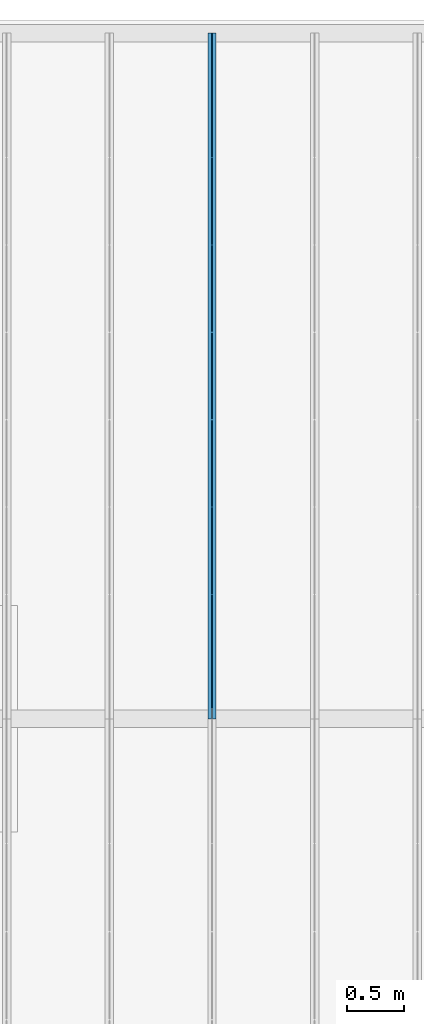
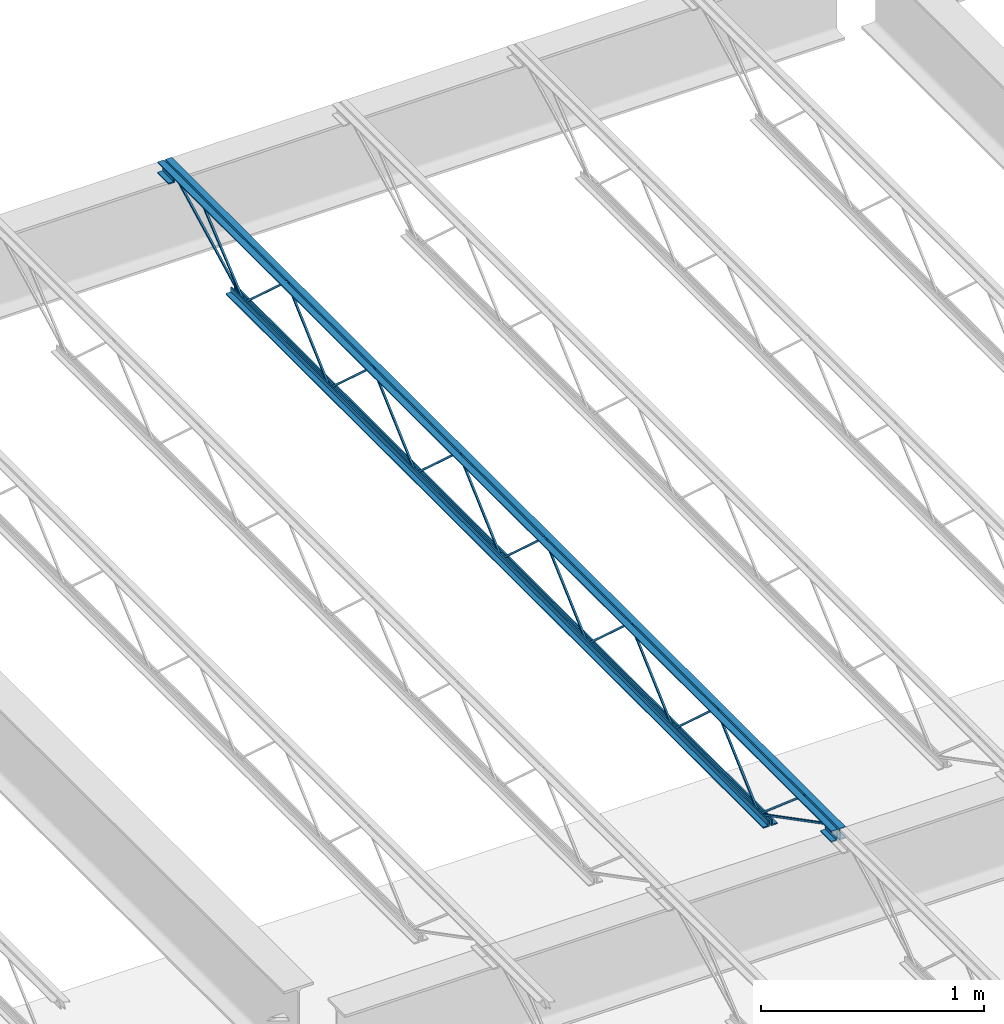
# One storey, part 42 of 75: 1 beam.
"""IFC2X3 building model written with IfcOpenShell, lengths in metres."""

import ifcopenshell
import ifcopenshell.guid

model = None  # the IFC model being written
_history = None  # IfcOwnerHistory: only IFC2X3 demands one
_inside = {}  # id of a spatial element -> (the spatial element, [elements in it])
_under = {}  # id of a project, library or spatial element -> (it, [spatial elements below it])
_declared = {}  # id of a project -> (the project, [libraries it declares])
_typed = {}  # id of a type object -> (the type object, [elements of that type])
_made_of = {}  # id of a material, layer set ... -> (it, [elements and type objects made of it])


def new_model(schema):
    """Start an empty IFC model of exactly this schema.

    Asked for "IFC4X3", IfcOpenShell would pick the latest addendum, in which some entities
    have other attributes; the version numbers below select the first issue.
    IFC2X3 requires an IfcOwnerHistory on every rooted entity: one is made here for all.
    """
    global model, _history
    if schema == "IFC4X3":
        model = ifcopenshell.file(schema_version=(4, 3, 0, 0))
    else:
        model = ifcopenshell.file(schema=schema)
    _inside.clear()
    _under.clear()
    _declared.clear()
    _typed.clear()
    _made_of.clear()
    _history = None
    if model.schema == "IFC2X3":
        org = make("IfcOrganization", Name="unknown")
        user = make(
            "IfcPersonAndOrganization",
            ThePerson=make("IfcPerson", FamilyName="unknown"),
            TheOrganization=org,
        )
        app = make(
            "IfcApplication",
            ApplicationDeveloper=org,
            Version="unknown",
            ApplicationFullName="unknown",
            ApplicationIdentifier="unknown",
        )
        _history = make(
            "IfcOwnerHistory",
            OwningUser=user,
            OwningApplication=app,
            ChangeAction="ADDED",
            CreationDate=0,
        )
    return model


def make(cls, **values):
    """One entity of the class cls with the attributes given. An attribute that is None is left unset."""
    return model.create_entity(
        cls, **{name: value for name, value in values.items() if value is not None}
    )


def entity(cls, *values):
    """Any entity or typed value of the class cls, its attributes in the order of the schema. None: left unset."""
    e = model.create_entity(cls)
    for i, value in enumerate(values):
        if value is not None:
            e[i] = value
    return e


def rooted(cls, **values):
    """An entity with a GlobalId (a new one), such as an element, a storey or a relation."""
    return make(cls, GlobalId=ifcopenshell.guid.new(), OwnerHistory=_history, **values)


def si_unit(unit_type, name, prefix=None):
    """IfcSIUnit, for example si_unit("LENGTHUNIT", "METRE", prefix="MILLI")."""
    return make("IfcSIUnit", UnitType=unit_type, Prefix=prefix, Name=name)


def converted_unit(unit_type, name, factor, base, dimensions=None, offset=None):
    """IfcConversionBasedUnit, such as the inch: factor (a typed value) times the base unit."""
    return make(
        "IfcConversionBasedUnit"
        if offset is None
        else "IfcConversionBasedUnitWithOffset",
        ConversionOffset=offset,
        Dimensions=None
        if dimensions is None
        else entity("IfcDimensionalExponents", *dimensions),
        UnitType=unit_type,
        Name=name,
        ConversionFactor=make(
            "IfcMeasureWithUnit", ValueComponent=factor, UnitComponent=base
        ),
    )


def assignment(units):
    """IfcUnitAssignment: the units of a project."""
    return None if units is None else make("IfcUnitAssignment", Units=units)


def point(xyz):
    """IfcCartesianPoint."""
    return None if xyz is None else make("IfcCartesianPoint", Coordinates=xyz)


def direction(xyz):
    """IfcDirection."""
    return None if xyz is None else make("IfcDirection", DirectionRatios=xyz)


def frame(location, z_axis=None, x_axis=None):
    """IfcAxis2Placement3D, a coordinate frame: its origin and axes. An axis left out is left unset."""
    return make(
        "IfcAxis2Placement3D",
        Location=point(location),
        Axis=direction(z_axis),
        RefDirection=direction(x_axis),
    )


def origin():
    """The frame at (0, 0, 0) with its axes left unset."""
    return frame((0.0, 0.0, 0.0))


def place(relative_to, where):
    """IfcLocalPlacement: puts the frame where relative to a parent placement (None: the world)."""
    return make(
        "IfcLocalPlacement", PlacementRelTo=relative_to, RelativePlacement=where
    )


def context(
    kind, dimensions, precision=None, world=None, true_north=None, identifier=None
):
    """IfcGeometricRepresentationContext, for example the 3D "Model" context."""
    return make(
        "IfcGeometricRepresentationContext",
        ContextIdentifier=identifier,
        ContextType=kind,
        CoordinateSpaceDimension=dimensions,
        Precision=precision,
        WorldCoordinateSystem=world,
        TrueNorth=true_north,
    )


def project(units=None, contexts=None):
    """IfcProject with its units and contexts."""
    return rooted(
        "IfcProject",
        Name="project",
        RepresentationContexts=contexts,
        UnitsInContext=assignment(units),
    )


def spatial(cls, under=None, at=None, **own):
    """A site, building, storey or space (cls), placed at a placement, below another one or the project."""
    s = rooted(cls, ObjectPlacement=at, **own)
    if under is not None:
        _under.setdefault(under.id(), (under, []))[1].append(s)
    return s


def faces_of(points, faces, orient=None, outer=None):
    """IfcFace entities. A face is a list of loops; a loop is a list of indices into points, from 0.

    orient and outer hold one flag for each loop. By default every Orientation is true, the
    first loop of a face is its IfcFaceOuterBound and the others are IfcFaceBound.
    """
    made = []
    for i, loops in enumerate(faces):
        bounds = []
        for j, loop in enumerate(loops):
            is_outer = j == 0 if outer is None else outer[i][j]
            bounds.append(
                make(
                    "IfcFaceOuterBound" if is_outer else "IfcFaceBound",
                    Bound=make("IfcPolyLoop", Polygon=[points[k] for k in loop]),
                    Orientation=True if orient is None else orient[i][j],
                )
            )
        made.append(make("IfcFace", Bounds=bounds))
    return made


def face_set(faces, orient=None, outer=None):
    """The faces of one IfcConnectedFaceSet. surface_model builds it on its shared points."""
    return ("IfcConnectedFaceSet", faces, orient, outer)


def surface_model(cls, points, shells):
    """IfcFaceBasedSurfaceModel or IfcShellBasedSurfaceModel (cls): surfaces that need not close."""
    shared = [point(p) for p in points]
    made = [make(c, CfsFaces=faces_of(shared, fs, o, b)) for c, fs, o, b in shells]
    if cls == "IfcFaceBasedSurfaceModel":
        return make(cls, FbsmFaces=made)
    return make(cls, SbsmBoundary=made)


def shape(context_of_items, identifier, shape_type, items):
    """IfcShapeRepresentation: the items that make up one representation, for example the "Body"."""
    return make(
        "IfcShapeRepresentation",
        ContextOfItems=context_of_items,
        RepresentationIdentifier=identifier,
        RepresentationType=shape_type,
        Items=items,
    )


def made_of(thing, what):
    """Note that an element or type object is made of a material, layer set ...; save() writes the relation."""
    if what is not None:
        _made_of.setdefault(what.id(), (what, []))[1].append(thing)
    return thing


def element(
    cls,
    number,
    at=None,
    inside=None,
    cuts=None,
    type_object=None,
    material=None,
    context=None,
    identifier="Body",
    shape_type=None,
    held_by="IfcProductDefinitionShape",
    body=None,
    shapes=None,
    **own,
):
    """One element of the class cls, such as IfcWall. Its Tag is "e" and its number.

    at: its placement. inside: the storey or other place that contains it. cuts: it is an
    opening in that element (IfcRelVoidsElement). A single representation is given by context,
    identifier, shape_type and body (its items); several are given by shapes. held_by: the class
    of the entity that holds the representations. save() writes the other relations.
    """
    e = rooted(cls, Tag="e%d" % number, ObjectPlacement=at, **own)
    if body is not None:
        shapes = [shape(context, identifier, shape_type, body)]
    if shapes is not None:
        e.Representation = make(held_by, Representations=shapes)
    if inside is not None:
        _inside.setdefault(inside.id(), (inside, []))[1].append(e)
    if cuts is not None:
        rooted(
            "IfcRelVoidsElement", RelatingBuildingElement=cuts, RelatedOpeningElement=e
        )
    if type_object is not None:
        _typed.setdefault(type_object.id(), (type_object, []))[1].append(e)
    return made_of(e, material)


def aggregate(whole, parts):
    """IfcRelAggregates: a whole, such as a stair, and the parts it consists of."""
    return rooted("IfcRelAggregates", RelatingObject=whole, RelatedObjects=parts)


def save(model, path):
    """Write the relations noted so far, then the file.

    IfcRelAggregates (storeys below a building ...), IfcRelContainedInSpatialStructure (elements
    in a storey), IfcRelDefinesByType, IfcRelAssociatesMaterial and IfcRelDeclares: one each for
    every whole, place, type object, material and project.
    """
    for whole, parts in _under.values():
        aggregate(whole, parts)
    for where, things in _inside.values():
        rooted(
            "IfcRelContainedInSpatialStructure",
            RelatedElements=things,
            RelatingStructure=where,
        )
    for kind, things in _typed.values():
        rooted("IfcRelDefinesByType", RelatedObjects=things, RelatingType=kind)
    for what, things in _made_of.values():
        rooted("IfcRelAssociatesMaterial", RelatedObjects=things, RelatingMaterial=what)
    for by, libraries in _declared.values():
        rooted("IfcRelDeclares", RelatingContext=by, RelatedDefinitions=libraries)
    model.write(path)


model = new_model("IFC2X3")

# Units and contexts
model_context = context("Model", 3, precision=1e-09, world=origin())
plan_context = context("Plan", 3, precision=1e-09, world=origin())
ifc_project = project(units=[si_unit("LENGTHUNIT", "METRE"), si_unit("AREAUNIT", "SQUARE_METRE"), si_unit("VOLUMEUNIT", "CUBIC_METRE"), converted_unit("PLANEANGLEUNIT", "DEGREE", entity("IfcRatioMeasure", 0.01745329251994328), si_unit("PLANEANGLEUNIT", "RADIAN"), dimensions=[0, 0, 0, 0, 0, 0, 0]), si_unit("TIMEUNIT", "SECOND")], contexts=[model_context, plan_context])

# Site, building, storey
site_placement = place(None, origin())
site = spatial("IfcSite", under=ifc_project, at=site_placement, Name="Default", CompositionType="ELEMENT")
building_placement = place(site_placement, origin())
building = spatial("IfcBuilding", under=site, at=building_placement, CompositionType="ELEMENT")
storey_placement = place(building_placement, origin())
storey = spatial("IfcBuildingStorey", under=building, at=storey_placement, Name="First Floor", CompositionType="ELEMENT", Elevation=-3.531500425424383e-13)

# Beam
beam_placement = place(storey_placement, frame((-44.31960714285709, 50.09000000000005, 4.112000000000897), z_axis=(0.0, 0.0, 1.0), x_axis=(-1.0, 0.0, 0.0)))
element("IfcBeam", 1, at=beam_placement, inside=storey, Name="M_K-Series Bar Joist-Rod Web:14K1:14K1", ObjectType="M_K-Series Bar Joist-Rod Web:14K1", context=model_context, shape_type="SurfaceModel", body=[
    surface_model("IfcFaceBasedSurfaceModel", [(-0.03199999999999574, -2.254000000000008, 0.01110000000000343), (-0.04150000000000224, -2.254000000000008, 0.01110000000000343), (-0.04150000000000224, -2.254000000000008, 0.001600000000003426), (-0.03199999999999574, -2.254000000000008, 0.001600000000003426), (-0.04149999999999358, -2.252655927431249, 0.01110000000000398), (-0.03199999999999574, -2.252655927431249, 0.01110000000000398), (-0.04150000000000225, -2.248994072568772, 0.001600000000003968), (-0.04150000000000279, -1.869844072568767, 0.3449000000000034), (-0.0415000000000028, -1.86715592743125, 0.3449000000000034), (-0.04150000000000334, -1.48800592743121, 0.001600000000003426), (-0.04150000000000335, -1.483000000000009, 0.001600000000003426), (-0.04150000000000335, -1.483000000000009, 0.01110000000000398), (-0.04150000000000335, -1.484344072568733, 0.01110000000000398), (-0.04150000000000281, -1.863494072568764, 0.3544000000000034), (-0.04150000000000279, -1.873505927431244, 0.3544000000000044), (-0.03200000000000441, -2.248994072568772, 0.001600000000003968), (-0.03199999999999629, -1.869844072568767, 0.3449000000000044), (-0.0319999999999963, -1.86715592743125, 0.3449000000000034), (-0.03199999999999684, -1.48800592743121, 0.001600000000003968), (-0.03199999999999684, -1.483000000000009, 0.001600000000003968), (-0.03199999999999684, -1.483000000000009, 0.01110000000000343), (-0.03199999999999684, -1.484344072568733, 0.01110000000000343), (-0.0319999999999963, -1.863494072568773, 0.3544000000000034), (-0.03199999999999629, -1.873505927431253, 0.3544000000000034), (-0.03199999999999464, -3.025000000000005, 0.01110000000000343), (-0.04150000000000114, -3.025000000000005, 0.01110000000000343), (-0.04150000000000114, -3.025000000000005, 0.001600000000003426), (-0.03199999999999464, -3.025000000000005, 0.001600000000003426), (-0.04149999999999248, -3.023655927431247, 0.01110000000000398), (-0.03199999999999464, -3.023655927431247, 0.01110000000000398), (-0.04150000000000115, -3.01999407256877, 0.001600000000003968), (-0.04150000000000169, -2.640844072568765, 0.3449000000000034), (-0.04150000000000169, -2.638155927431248, 0.3449000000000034), (-0.04150000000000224, -2.259005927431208, 0.001600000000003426), (-0.04150000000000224, -2.254000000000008, 0.01110000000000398), (-0.04150000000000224, -2.255344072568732, 0.01110000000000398), (-0.0415000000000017, -2.634494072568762, 0.3544000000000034), (-0.04150000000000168, -2.644505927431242, 0.3544000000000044), (-0.03200000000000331, -3.01999407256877, 0.001600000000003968), (-0.03199999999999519, -2.640844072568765, 0.3449000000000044), (-0.03199999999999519, -2.638155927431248, 0.3449000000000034), (-0.03199999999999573, -2.259005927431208, 0.001600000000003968), (-0.03199999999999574, -2.254000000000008, 0.001600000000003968), (-0.03199999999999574, -2.255344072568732, 0.01110000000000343), (-0.0319999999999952, -2.634494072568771, 0.3544000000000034), (-0.03199999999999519, -2.644505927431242, 0.3544000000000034), (-0.03199999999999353, -3.796000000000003, 0.01110000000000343), (-0.04150000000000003, -3.796000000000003, 0.01110000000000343), (-0.04150000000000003, -3.796000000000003, 0.001600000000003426), (-0.03199999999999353, -3.796000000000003, 0.001600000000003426), (-0.04149999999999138, -3.794655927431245, 0.01110000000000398), (-0.03199999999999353, -3.794655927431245, 0.01110000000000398), (-0.04150000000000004, -3.790994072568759, 0.001600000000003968), (-0.04150000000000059, -3.411844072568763, 0.3449000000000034), (-0.04150000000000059, -3.409155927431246, 0.3449000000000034), (-0.04150000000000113, -3.030005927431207, 0.001600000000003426), (-0.04150000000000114, -3.025000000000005, 0.01110000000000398), (-0.04150000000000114, -3.026344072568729, 0.01110000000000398), (-0.0415000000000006, -3.40549407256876, 0.3544000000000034), (-0.04150000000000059, -3.41550592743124, 0.3544000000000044), (-0.03200000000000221, -3.790994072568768, 0.001600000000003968), (-0.03199999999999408, -3.411844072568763, 0.3449000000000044), (-0.03199999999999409, -3.409155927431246, 0.3449000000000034), (-0.03199999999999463, -3.030005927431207, 0.001600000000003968), (-0.03199999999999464, -3.025000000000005, 0.001600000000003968), (-0.03199999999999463, -3.026344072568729, 0.01110000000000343), (-0.03199999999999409, -3.40549407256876, 0.3544000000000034), (-0.03199999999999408, -3.41550592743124, 0.3544000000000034), (-0.03199999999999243, -4.567000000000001, 0.01110000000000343), (-0.04149999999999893, -4.567000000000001, 0.01110000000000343), (-0.04149999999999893, -4.567000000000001, 0.001600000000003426), (-0.03199999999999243, -4.567000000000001, 0.001600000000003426), (-0.04149999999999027, -4.565655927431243, 0.01110000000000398), (-0.03199999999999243, -4.565655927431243, 0.01110000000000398), (-0.04149999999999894, -4.561994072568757, 0.001600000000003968), (-0.04149999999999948, -4.182844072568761, 0.3449000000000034), (-0.04149999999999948, -4.180155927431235, 0.3449000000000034), (-0.04150000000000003, -3.801005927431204, 0.001600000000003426), (-0.04150000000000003, -3.795999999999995, 0.001600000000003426), (-0.04150000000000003, -3.796000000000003, 0.01110000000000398), (-0.04150000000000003, -3.797344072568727, 0.01110000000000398), (-0.04149999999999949, -4.176494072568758, 0.3544000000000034), (-0.04149999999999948, -4.186505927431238, 0.3544000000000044), (-0.0320000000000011, -4.561994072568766, 0.001600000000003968), (-0.03199999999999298, -4.182844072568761, 0.3449000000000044), (-0.03199999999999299, -4.180155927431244, 0.3449000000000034), (-0.03199999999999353, -3.801005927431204, 0.001600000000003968), (-0.03199999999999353, -3.796000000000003, 0.001600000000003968), (-0.03199999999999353, -3.795999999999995, 0.01110000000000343), (-0.03199999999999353, -3.797344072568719, 0.01110000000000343), (-0.03199999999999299, -4.176494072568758, 0.3544000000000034), (-0.03199999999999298, -4.186505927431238, 0.3544000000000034), (-0.03199999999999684, -1.483000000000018, 0.01109999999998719), (-0.04150000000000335, -1.483000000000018, 0.01109999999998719), (-0.04150000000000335, -1.483000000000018, 0.001599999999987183), (-0.03199999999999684, -1.483000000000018, 0.001599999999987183), (-0.04150000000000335, -1.48165592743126, 0.01109999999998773), (-0.03200000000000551, -1.48165592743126, 0.01109999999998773), (-0.04150000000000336, -1.477994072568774, 0.001599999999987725), (-0.0415000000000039, -1.098844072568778, 0.3448999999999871), (-0.0415000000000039, -1.096155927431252, 0.3448999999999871), (-0.04150000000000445, -0.717005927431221, 0.001599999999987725), (-0.04150000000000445, -0.7120000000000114, 0.001599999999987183), (-0.04150000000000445, -0.7120000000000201, 0.01109999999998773), (-0.04150000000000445, -0.713344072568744, 0.01109999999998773), (-0.04150000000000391, -1.092494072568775, 0.3543999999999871), (-0.04150000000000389, -1.102505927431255, 0.3543999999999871), (-0.03200000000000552, -1.477994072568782, 0.001599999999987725), (-0.03200000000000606, -1.098844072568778, 0.3448999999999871), (-0.03200000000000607, -1.09615592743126, 0.3448999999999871), (-0.03200000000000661, -0.717005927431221, 0.001599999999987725), (-0.03200000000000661, -0.7120000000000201, 0.001599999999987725), (-0.03199999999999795, -0.7120000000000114, 0.01109999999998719), (-0.03200000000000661, -0.7133440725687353, 0.01109999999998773), (-0.03200000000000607, -1.092494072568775, 0.3543999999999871), (-0.03200000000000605, -1.102505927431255, 0.3543999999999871), (-0.03199999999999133, -5.33799999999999, 0.01110000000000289), (-0.04149999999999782, -5.33799999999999, 0.01110000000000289), (-0.04149999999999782, -5.33799999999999, 0.001600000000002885), (-0.03199999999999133, -5.33799999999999, 0.001600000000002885), (-0.04149999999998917, -5.336655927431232, 0.01110000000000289), (-0.03199999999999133, -5.336655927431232, 0.01110000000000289), (-0.04149999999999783, -5.332994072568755, 0.001600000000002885), (-0.04149999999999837, -4.95384407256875, 0.3449000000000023), (-0.04149999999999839, -4.951155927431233, 0.3449000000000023), (-0.04149999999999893, -4.572005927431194, 0.001600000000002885), (-0.04149999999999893, -4.566999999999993, 0.001600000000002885), (-0.04149999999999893, -4.566999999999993, 0.01110000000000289), (-0.04149999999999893, -4.568344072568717, 0.01110000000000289), (-0.04149999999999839, -4.947494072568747, 0.3544000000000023), (-0.04149999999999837, -4.957505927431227, 0.3544000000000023), (-0.03199999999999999, -5.332994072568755, 0.001600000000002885), (-0.03199999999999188, -4.95384407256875, 0.3449000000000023), (-0.03199999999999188, -4.951155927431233, 0.3449000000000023), (-0.03199999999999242, -4.572005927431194, 0.001600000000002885), (-0.03199999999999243, -4.566999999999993, 0.001600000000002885), (-0.03199999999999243, -4.566999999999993, 0.01110000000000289), (-0.03199999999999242, -4.568344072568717, 0.01110000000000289), (-0.03199999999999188, -4.947494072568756, 0.3544000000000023), (-0.03199999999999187, -4.957505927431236, 0.3544000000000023), (-0.04150000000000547, 0.0, 0.3559999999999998), (-0.07350000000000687, 0.0, 0.3559999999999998), (-0.07350000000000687, 0.0, 0.349499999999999), (-0.048000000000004, 0.0, 0.349499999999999), (-0.048000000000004, 0.0, 0.3239999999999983), (-0.04150000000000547, 0.0, 0.3239999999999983), (-0.03200000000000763, 0.0, 0.3559999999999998), (-0.03200000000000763, 0.0, 0.3239999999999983), (-0.02550000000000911, 0.0, 0.3239999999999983), (-0.02550000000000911, 0.0, 0.349499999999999), (0.0, 0.0, 0.349499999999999), (0.0, 0.0, 0.3559999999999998), (-0.04149999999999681, -6.049999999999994, 0.3559999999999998), (-0.07349999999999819, -6.049999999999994, 0.3559999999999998), (-0.07349999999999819, -6.049999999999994, 0.349499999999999), (-0.04799999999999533, -6.049999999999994, 0.349499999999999), (-0.04799999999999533, -6.049999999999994, 0.3239999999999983), (-0.04149999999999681, -6.049999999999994, 0.3239999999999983), (-0.03199999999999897, -6.049999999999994, 0.3559999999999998), (-0.03199999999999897, -6.049999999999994, 0.3239999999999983), (-0.02550000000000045, -6.049999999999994, 0.3239999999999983), (-0.02550000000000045, -6.049999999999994, 0.349499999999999), (0.0, -6.049999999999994, 0.349499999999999), (0.0, -6.049999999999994, 0.3559999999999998), (-0.03199999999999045, -5.950000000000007, 0.2924999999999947), (0.0, -5.950000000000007, 0.2924999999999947), (0.0, -5.950000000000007, 0.2989999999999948), (-0.02549999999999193, -5.950000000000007, 0.2989999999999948), (-0.02549999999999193, -5.950000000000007, 0.3239999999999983), (-0.03199999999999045, -5.950000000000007, 0.3239999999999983), (-0.07349999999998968, -5.950000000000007, 0.2924999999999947), (-0.04149999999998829, -5.950000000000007, 0.2924999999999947), (-0.04149999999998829, -5.950000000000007, 0.3239999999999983), (-0.04799999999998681, -5.950000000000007, 0.3239999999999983), (-0.04799999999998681, -5.950000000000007, 0.2989999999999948), (-0.07349999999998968, -5.950000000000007, 0.2989999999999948), (-0.03199999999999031, -6.049999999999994, 0.2924999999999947), (0.0, -6.049999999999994, 0.2924999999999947), (0.0, -6.049999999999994, 0.2989999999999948), (-0.02549999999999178, -6.049999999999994, 0.2989999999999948), (-0.02549999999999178, -6.049999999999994, 0.3239999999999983), (-0.03199999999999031, -6.049999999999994, 0.3239999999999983), (-0.07349999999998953, -6.049999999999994, 0.2924999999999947), (-0.04149999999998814, -6.049999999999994, 0.2924999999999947), (-0.04149999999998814, -6.049999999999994, 0.3239999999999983), (-0.04799999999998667, -6.049999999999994, 0.3239999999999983), (-0.04799999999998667, -6.049999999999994, 0.2989999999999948), (-0.07349999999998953, -6.049999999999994, 0.2989999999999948), (-0.04149999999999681, 0.0, 0.2924999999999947), (-0.04149999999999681, 0.0, 0.3239999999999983), (-0.04799999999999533, 0.0, 0.3239999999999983), (-0.04799999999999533, 0.0, 0.2989999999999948), (-0.07349999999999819, 0.0, 0.2989999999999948), (-0.07349999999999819, 0.0, 0.2924999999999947), (-0.03199999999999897, 0.0, 0.2924999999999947), (0.0, 0.0, 0.2924999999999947), (0.0, 0.0, 0.2989999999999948), (-0.02550000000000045, 0.0, 0.2989999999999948), (-0.02550000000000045, 0.0, 0.3239999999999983), (-0.03199999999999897, 0.0, 0.3239999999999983), (-0.04149999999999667, -0.0999999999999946, 0.2924999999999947), (-0.04149999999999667, -0.0999999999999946, 0.3239999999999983), (-0.04799999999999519, -0.0999999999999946, 0.3239999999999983), (-0.04799999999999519, -0.0999999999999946, 0.2989999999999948), (-0.07349999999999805, -0.0999999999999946, 0.2989999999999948), (-0.07349999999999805, -0.0999999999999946, 0.2924999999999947), (-0.03199999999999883, -0.0999999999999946, 0.2924999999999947), (0.0, -0.0999999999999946, 0.2924999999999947), (0.0, -0.0999999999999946, 0.2989999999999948), (-0.0255000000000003, -0.0999999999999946, 0.2989999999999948), (-0.0255000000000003, -0.0999999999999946, 0.3239999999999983), (-0.03199999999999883, -0.0999999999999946, 0.3239999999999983), (-0.0415000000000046, -0.6119999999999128, 0.0), (-0.0415000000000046, -0.6119999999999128, 0.03199999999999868), (-0.04800000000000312, -0.6119999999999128, 0.03199999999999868), (-0.04800000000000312, -0.6119999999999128, 0.006499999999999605), (-0.07350000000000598, -0.6119999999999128, 0.006499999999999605), (-0.07350000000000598, -0.6119999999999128, 0.0), (-0.03200000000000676, -0.6119999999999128, 0.0), (0.0, -0.6119999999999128, 0.0), (0.0, -0.6119999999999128, 0.006499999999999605), (-0.02550000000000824, -0.6119999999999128, 0.006499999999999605), (-0.02550000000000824, -0.6119999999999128, 0.03199999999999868), (-0.03200000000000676, -0.6119999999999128, 0.03199999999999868), (-0.04149999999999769, -5.437999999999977, 0.0), (-0.04149999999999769, -5.437999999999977, 0.03199999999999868), (-0.04799999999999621, -5.437999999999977, 0.03199999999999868), (-0.04799999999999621, -5.437999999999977, 0.006499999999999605), (-0.07349999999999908, -5.437999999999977, 0.006499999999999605), (-0.07349999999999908, -5.437999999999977, 0.0), (-0.03199999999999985, -5.437999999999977, 0.0), (0.0, -5.437999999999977, 0.0), (0.0, -5.437999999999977, 0.006499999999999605), (-0.02550000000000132, -5.437999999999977, 0.006499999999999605), (-0.02550000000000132, -5.437999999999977, 0.03199999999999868), (-0.03199999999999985, -5.437999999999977, 0.03199999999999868), (-0.03199999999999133, -5.335811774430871, 0.01056594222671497), (-0.04149999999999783, -5.335811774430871, 0.01056594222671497), (-0.04149999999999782, -5.34018822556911, 0.002134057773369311), (-0.03199999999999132, -5.34018822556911, 0.002134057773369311), (-0.03199999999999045, -5.948840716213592, 0.3287499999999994), (-0.03199999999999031, -6.049999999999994, 0.3287499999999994), (-0.03199999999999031, -6.049999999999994, 0.3192499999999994), (-0.03199999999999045, -5.951159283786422, 0.3192499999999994), (-0.04149999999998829, -5.951159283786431, 0.3192499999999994), (-0.04149999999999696, -5.948840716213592, 0.3287499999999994), (-0.04149999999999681, -6.049999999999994, 0.3287499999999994), (-0.04149999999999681, -6.049999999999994, 0.3192499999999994), (-0.03199999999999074, -5.743457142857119, 0.341700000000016), (-0.04149999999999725, -5.743457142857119, 0.341700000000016), (-0.04149999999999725, -5.743457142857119, 0.332200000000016), (-0.03199999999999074, -5.743457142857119, 0.332200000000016), (-0.0414999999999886, -5.729024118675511, 0.341700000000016), (-0.03199999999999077, -5.729024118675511, 0.341700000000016), (-0.04149999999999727, -5.732490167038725, 0.332200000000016), (-0.04149999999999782, -5.341058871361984, 0.002716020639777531), (-0.04149999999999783, -5.334941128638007, 0.009983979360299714), (-0.03199999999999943, -5.732490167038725, 0.332200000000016), (-0.03199999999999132, -5.341058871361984, 0.002716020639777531), (-0.03199999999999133, -5.334941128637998, 0.009983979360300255), (-0.03199999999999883, -0.09781177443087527, 0.3197840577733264), (-0.03199999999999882, -0.1021882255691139, 0.3282159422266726), (-0.04150000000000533, -0.1021882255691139, 0.3282159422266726), (-0.04150000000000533, -0.09781177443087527, 0.3197840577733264), (-0.03199999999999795, -0.7098117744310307, 0.002134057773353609), (-0.03199999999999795, -0.7141882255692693, 0.01056594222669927), (-0.04150000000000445, -0.7141882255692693, 0.01056594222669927), (-0.04150000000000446, -0.7098117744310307, 0.002134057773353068), (-0.03199999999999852, -0.3088922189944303, 0.3460454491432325), (-0.03199999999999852, -0.3150792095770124, 0.3532545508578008), (-0.04150000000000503, -0.3150792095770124, 0.3532545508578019), (-0.04150000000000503, -0.3088922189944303, 0.3460454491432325), (-0.03199999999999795, -0.7089065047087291, 0.002745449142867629), (-0.03199999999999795, -0.715093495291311, 0.009954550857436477), (-0.04150000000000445, -0.715093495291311, 0.009954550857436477), (-0.04150000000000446, -0.7089065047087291, 0.002745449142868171)], [face_set([[[0, 1, 2, 3]], [[1, 4, 5, 0]], [[2, 6, 7, 8, 9, 10, 11, 12, 13, 14, 4, 1]], [[3, 2, 6, 15]], [[0, 3, 15, 16, 17, 18, 19, 20, 21, 22, 23, 5]], [[4, 5, 23, 14]], [[15, 16, 7, 6]], [[14, 13, 22, 23]], [[16, 7, 8, 17]], [[13, 12, 21, 22]], [[17, 8, 9, 18]], [[20, 11, 10, 19]], [[12, 11, 20, 21]], [[18, 9, 10, 19]]]), face_set([[[24, 25, 26, 27]], [[25, 28, 29, 24]], [[26, 30, 31, 32, 33, 2, 34, 35, 36, 37, 28, 25]], [[27, 26, 30, 38]], [[24, 27, 38, 39, 40, 41, 42, 0, 43, 44, 45, 29]], [[28, 29, 45, 37]], [[38, 39, 31, 30]], [[37, 36, 44, 45]], [[39, 31, 32, 40]], [[36, 35, 43, 44]], [[40, 32, 33, 41]], [[0, 34, 2, 42]], [[35, 34, 0, 43]], [[41, 33, 2, 42]]]), face_set([[[46, 47, 48, 49]], [[47, 50, 51, 46]], [[48, 52, 53, 54, 55, 26, 56, 57, 58, 59, 50, 47]], [[49, 48, 52, 60]], [[46, 49, 60, 61, 62, 63, 64, 24, 65, 66, 67, 51]], [[50, 51, 67, 59]], [[60, 61, 53, 52]], [[59, 58, 66, 67]], [[61, 53, 54, 62]], [[58, 57, 65, 66]], [[62, 54, 55, 63]], [[24, 56, 26, 64]], [[57, 56, 24, 65]], [[63, 55, 26, 64]]]), face_set([[[68, 69, 70, 71]], [[69, 72, 73, 68]], [[70, 74, 75, 76, 77, 78, 79, 80, 81, 82, 72, 69]], [[71, 70, 74, 83]], [[68, 71, 83, 84, 85, 86, 87, 88, 89, 90, 91, 73]], [[72, 73, 91, 82]], [[83, 84, 75, 74]], [[82, 81, 90, 91]], [[84, 75, 76, 85]], [[81, 80, 89, 90]], [[85, 76, 77, 86]], [[88, 79, 78, 87]], [[80, 79, 88, 89]], [[86, 77, 78, 87]]]), face_set([[[92, 93, 94, 95]], [[93, 96, 97, 92]], [[94, 98, 99, 100, 101, 102, 103, 104, 105, 106, 96, 93]], [[95, 94, 98, 107]], [[92, 95, 107, 108, 109, 110, 111, 112, 113, 114, 115, 97]], [[96, 97, 115, 106]], [[107, 108, 99, 98]], [[106, 105, 114, 115]], [[108, 99, 100, 109]], [[105, 104, 113, 114]], [[109, 100, 101, 110]], [[112, 103, 102, 111]], [[104, 103, 112, 113]], [[110, 101, 102, 111]]]), face_set([[[116, 117, 118, 119]], [[117, 120, 121, 116]], [[118, 122, 123, 124, 125, 126, 127, 128, 129, 130, 120, 117]], [[119, 118, 122, 131]], [[116, 119, 131, 132, 133, 134, 135, 136, 137, 138, 139, 121]], [[120, 121, 139, 130]], [[131, 132, 123, 122]], [[130, 129, 138, 139]], [[132, 123, 124, 133]], [[129, 128, 137, 138]], [[133, 124, 125, 134]], [[136, 127, 126, 135]], [[128, 127, 136, 137]], [[134, 125, 126, 135]]]), face_set([[[140, 141, 142, 143, 144, 145]], [[146, 147, 148, 149, 150, 151]], [[152, 153, 154, 155, 156, 157]], [[158, 159, 160, 161, 162, 163]], [[145, 140, 152, 157]], [[144, 145, 157, 156]], [[143, 155, 156, 144]], [[142, 143, 155, 154]], [[141, 153, 154, 142]], [[140, 152, 153, 141]], [[151, 163, 158, 146]], [[150, 151, 163, 162]], [[149, 150, 162, 161]], [[148, 149, 161, 160]], [[147, 148, 160, 159]], [[146, 158, 159, 147]]]), face_set([[[164, 165, 166, 167, 168, 169]], [[170, 171, 172, 173, 174, 175]], [[176, 177, 178, 179, 180, 181]], [[182, 183, 184, 185, 186, 187]], [[169, 181, 176, 164]], [[168, 180, 181, 169]], [[167, 168, 180, 179]], [[166, 178, 179, 167]], [[165, 166, 178, 177]], [[164, 165, 177, 176]], [[175, 187, 182, 170]], [[174, 186, 187, 175]], [[173, 185, 186, 174]], [[172, 184, 185, 173]], [[171, 172, 184, 183]], [[170, 171, 183, 182]]]), face_set([[[188, 189, 190, 191, 192, 193]], [[194, 195, 196, 197, 198, 199]], [[200, 201, 202, 203, 204, 205]], [[206, 207, 208, 209, 210, 211]], [[193, 188, 200, 205]], [[192, 204, 205, 193]], [[191, 203, 204, 192]], [[190, 202, 203, 191]], [[189, 201, 202, 190]], [[188, 189, 201, 200]], [[199, 211, 206, 194]], [[198, 210, 211, 199]], [[197, 198, 210, 209]], [[196, 208, 209, 197]], [[195, 196, 208, 207]], [[194, 195, 207, 206]]]), face_set([[[212, 213, 214, 215, 216, 217]], [[218, 219, 220, 221, 222, 223]], [[224, 225, 226, 227, 228, 229]], [[230, 231, 232, 233, 234, 235]], [[217, 212, 224, 229]], [[216, 228, 229, 217]], [[215, 227, 228, 216]], [[214, 226, 227, 215]], [[213, 225, 226, 214]], [[212, 213, 225, 224]], [[223, 235, 230, 218]], [[222, 234, 235, 223]], [[221, 222, 234, 233]], [[220, 232, 233, 221]], [[219, 220, 232, 231]], [[218, 219, 231, 230]]]), face_set([[[236, 237, 238, 239]], [[239, 236, 240, 241, 242, 243]], [[238, 239, 243, 244]], [[237, 245, 246, 247, 244, 238]], [[236, 240, 245, 237]], [[241, 246, 247, 242]], [[244, 243, 242, 247]], [[240, 241, 246, 245]]]), face_set([[[248, 249, 250, 251]], [[249, 252, 253, 248]], [[250, 254, 255, 256, 252, 249]], [[251, 250, 254, 257]], [[248, 251, 257, 258, 259, 253]], [[259, 256, 255, 258]], [[252, 256, 259, 253]], [[257, 254, 255, 258]]]), face_set([[[260, 261, 262, 263]], [[264, 265, 266, 267]], [[263, 267, 264, 260]], [[262, 266, 267, 263]], [[261, 262, 266, 265]], [[260, 261, 265, 264]]]), face_set([[[268, 269, 270, 271]], [[272, 273, 274, 275]], [[271, 275, 272, 268]], [[270, 274, 275, 271]], [[269, 270, 274, 273]], [[268, 269, 273, 272]]])]),
])

save(model, "model.ifc")
